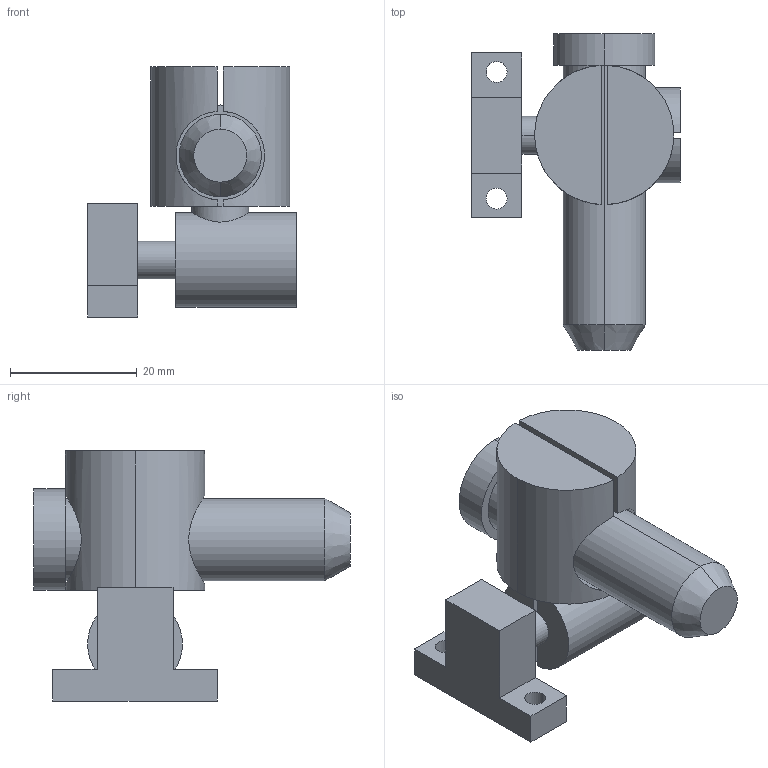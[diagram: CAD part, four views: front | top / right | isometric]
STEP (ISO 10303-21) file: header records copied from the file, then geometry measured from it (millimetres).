
FILE_DESCRIPTION (( 'STEP AP203' ), '1' );
FILE_NAME ('ER-ATH.STEP', '2005-09-06T02:33:14', ( '' ), ( '' ), 'SwSTEP 2.0', 'SolidWorks 2004073', '' );
FILE_SCHEMA (( 'CONFIG_CONTROL_DESIGN' ));
Length unit declared in the file: millimetre
Products named in the file (1): ER-ATH
Bounding box: 32.93 x 50 x 39.5 mm (x, y, z)
Volume: 17036.1 mm3; surface area: 8907.6 mm2
Topology: 4 solids, 4 shells, 55 faces, 122 edges, 78 vertices
Faces by surface type: plane 30, cylinder 23, cone 2
Entity records: 1840 total; most frequent: CARTESIAN_POINT 515, DIRECTION 268, ORIENTED_EDGE 244, EDGE_CURVE 122, AXIS2_PLACEMENT_3D 98, VERTEX_POINT 78, VECTOR 72, LINE 72
